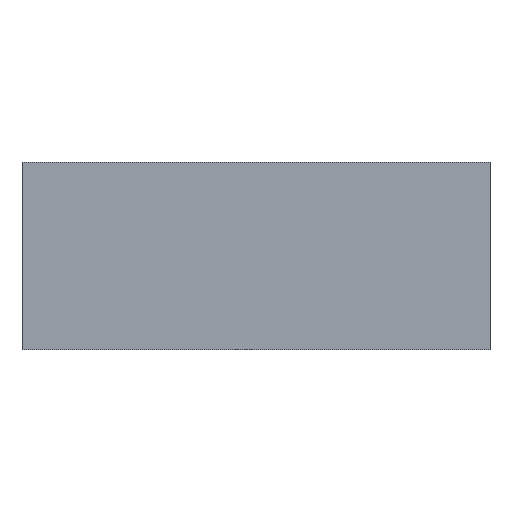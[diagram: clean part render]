
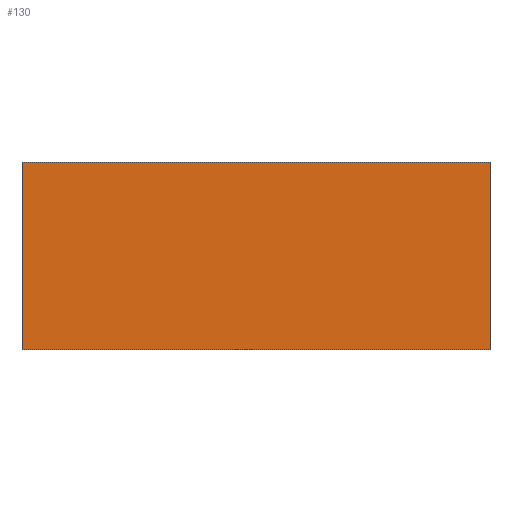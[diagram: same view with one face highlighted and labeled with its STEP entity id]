
A CAD part, front view. The second image highlights one B-rep face of the part: STEP entity #130.
In plain terms, the highlighted planar face has unit normal (0, -1, 0).
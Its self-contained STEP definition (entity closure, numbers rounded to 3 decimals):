
#130=ADVANCED_FACE('',(#222),#224,.F.);
#222=FACE_BOUND('',#223,.T.);
#223=EDGE_LOOP('',(#294,#295,#296,#297));
#224=PLANE('',#225);
#225=AXIS2_PLACEMENT_3D('',#226,#227,#228);
#226=CARTESIAN_POINT('',(0.,-1.7,0.));
#227=DIRECTION('',(0.,1.,0.));
#228=DIRECTION('',(-1.,0.,0.));
#294=ORIENTED_EDGE('',*,*,#323,.F.);
#295=ORIENTED_EDGE('',*,*,#316,.F.);
#296=ORIENTED_EDGE('',*,*,#310,.F.);
#297=ORIENTED_EDGE('',*,*,#339,.F.);
#310=EDGE_CURVE('',#340,#341,#342,.T.);
#316=EDGE_CURVE('',#341,#352,#353,.T.);
#323=EDGE_CURVE('',#352,#365,#366,.T.);
#339=EDGE_CURVE('',#365,#340,#389,.T.);
#340=VERTEX_POINT('',#390);
#341=VERTEX_POINT('',#391);
#342=LINE('',#392,#393);
#352=VERTEX_POINT('',#414);
#353=LINE('',#415,#416);
#365=VERTEX_POINT('',#441);
#366=LINE('',#442,#443);
#389=LINE('',#497,#498);
#390=CARTESIAN_POINT('',(10.,-1.7,8.));
#391=CARTESIAN_POINT('',(10.,-1.7,0.));
#392=CARTESIAN_POINT('',(10.,-1.7,8.));
#393=VECTOR('',#394,1.);
#394=DIRECTION('',(0.,0.,-1.));
#414=CARTESIAN_POINT('',(-10.,-1.7,0.));
#415=CARTESIAN_POINT('',(10.,-1.7,0.));
#416=VECTOR('',#417,1.);
#417=DIRECTION('',(-1.,0.,0.));
#441=CARTESIAN_POINT('',(-10.,-1.7,8.));
#442=CARTESIAN_POINT('',(-10.,-1.7,0.));
#443=VECTOR('',#444,1.);
#444=DIRECTION('',(0.,0.,1.));
#497=CARTESIAN_POINT('',(-10.,-1.7,8.));
#498=VECTOR('',#499,1.);
#499=DIRECTION('',(1.,0.,0.));
